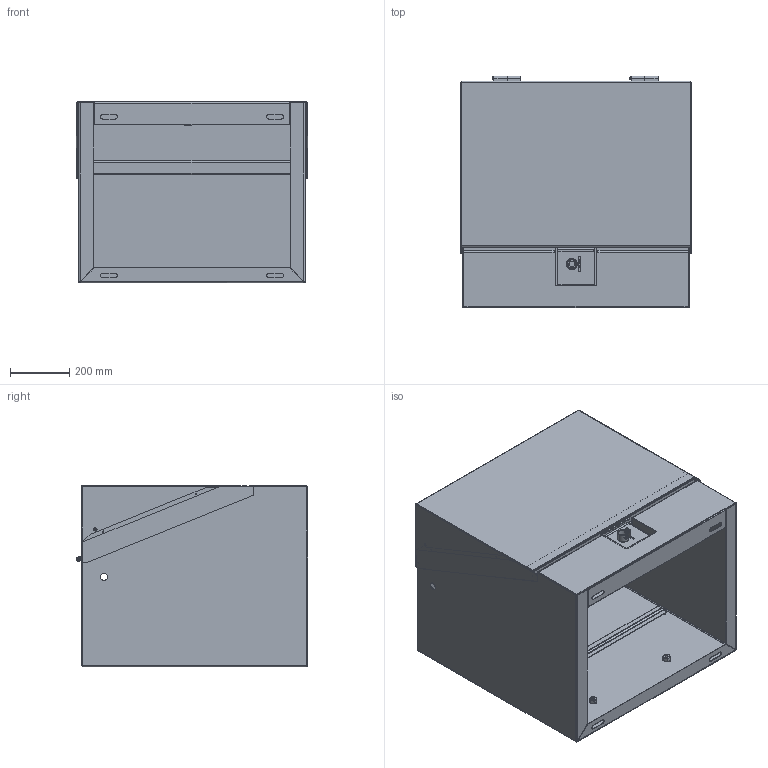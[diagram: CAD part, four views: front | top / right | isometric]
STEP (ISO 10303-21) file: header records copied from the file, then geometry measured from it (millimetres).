
FILE_DESCRIPTION (( 'STEP AP203' ), '1' );
FILE_NAME ('uj303024m2.STEP', '2009-03-24T13:11:20', ( '' ), ( '' ), 'SwSTEP 2.0', 'SolidWorks 2007', '' );
FILE_SCHEMA (( 'CONFIG_CONTROL_DESIGN' ));
Length unit declared in the file: inch
Products named in the file (25): uj303024m2; 87923123_87923123; 87922224_87922224; 87923077_87923077; 99406298_99406298; 87929743_87929743; 87923179_87923179; 22112003_22112003; 87923065_87923065; 87935685_30x30; 87923147_87923147; 87929200_87929199; 87923149_87923149; 87921622_87921621; 87933708_87933708; 87550640_87550640; 87921624_87921624; 87929218_87929218; 87921618_87921618; 87933992_87933992; 87929216_87929216; 87921634_87921634; 87923647_87923647; 87937246_87937246; 87923627_87923627
Assembly tree (29 placements, depth 3):
  uj303024m2
    87937246_87937246
      87923077_87923077
      99406298_99406298  x2
      87923123_87923123  x2
      87923647_87923647
      87922224_87922224  x2
      87923179_87923179
      87923627_87923627
    87929200_87929199
    87935685_30x30
      87923147_87923147  x2
      87923065_87923065
      87929743_87929743
      87921622_87921621  x2
      87923149_87923149
      22112003_22112003
    87921624_87921624
    87933992_87933992
      87929216_87929216
      87921634_87921634
    87550640_87550640
    87933708_87933708
      87929218_87929218
      87921618_87921618
Bounding box: 777.85 x 778.87 x 612.22 mm (x, y, z)
Volume: 7570182.2 mm3; surface area: 6176889.5 mm2
Topology: 27 solids, 27 shells, 855 faces, 1984 edges, 1221 vertices
Faces by surface type: plane 486, cylinder 290, torus 45, cone 26, bspline 8
Entity records: 24863 total; most frequent: CARTESIAN_POINT 4925, DIRECTION 3668, ORIENTED_EDGE 3412, EDGE_CURVE 1706, AXIS2_PLACEMENT_3D 1308, VECTOR 1052, LINE 1052, VERTEX_POINT 1051
